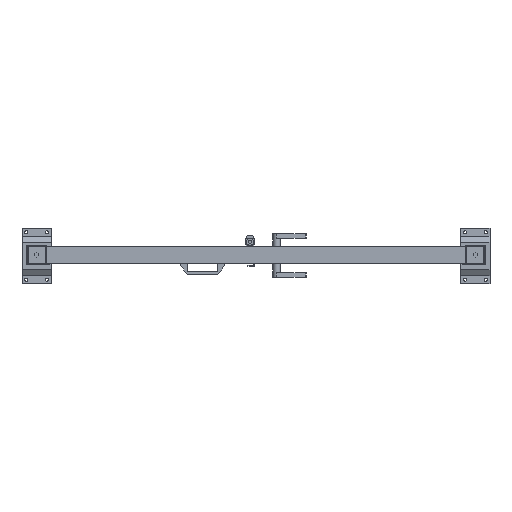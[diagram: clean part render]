
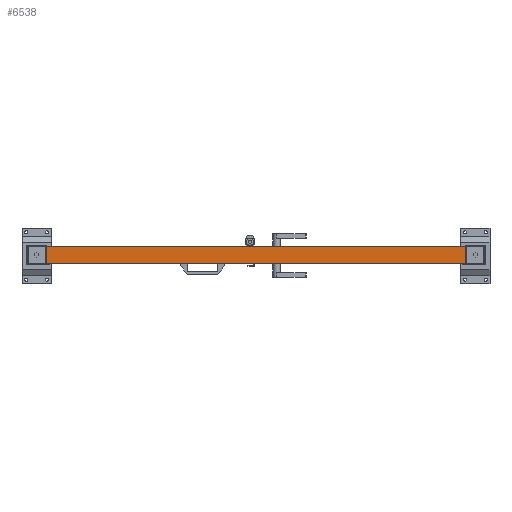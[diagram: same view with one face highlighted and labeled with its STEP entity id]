
A CAD part, top view. The second image highlights one B-rep face of the part: STEP entity #6538.
In plain terms, the highlighted planar face has unit normal (0, 0, 1).
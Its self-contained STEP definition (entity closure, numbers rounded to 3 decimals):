
#827=FACE_OUTER_BOUND('',#1171,.T.);
#1171=EDGE_LOOP('',(#4673,#4674,#4675,#4676));
#1603=LINE('',#9396,#2347);
#1604=LINE('',#9399,#2348);
#1605=LINE('',#9401,#2349);
#1606=LINE('',#9402,#2350);
#2347=VECTOR('',#7543,1.);
#2348=VECTOR('',#7546,1.);
#2349=VECTOR('',#7547,1.);
#2350=VECTOR('',#7548,1.);
#3068=VERTEX_POINT('',#9389);
#3071=VERTEX_POINT('',#9394);
#3072=VERTEX_POINT('',#9398);
#3073=VERTEX_POINT('',#9400);
#3723=EDGE_CURVE('',#3068,#3071,#1603,.T.);
#3724=EDGE_CURVE('',#3072,#3068,#1604,.T.);
#3725=EDGE_CURVE('',#3073,#3071,#1605,.T.);
#3726=EDGE_CURVE('',#3072,#3073,#1606,.T.);
#4673=ORIENTED_EDGE('',*,*,#3724,.T.);
#4674=ORIENTED_EDGE('',*,*,#3723,.T.);
#4675=ORIENTED_EDGE('',*,*,#3725,.F.);
#4676=ORIENTED_EDGE('',*,*,#3726,.F.);
#6268=PLANE('',#6912);
#6538=ADVANCED_FACE('',(#827),#6268,.T.);
#6912=AXIS2_PLACEMENT_3D('',#9397,#7544,#7545);
#7543=DIRECTION('',(1.,0.,0.));
#7544=DIRECTION('center_axis',(0.,0.,1.));
#7545=DIRECTION('ref_axis',(0.,-1.,0.));
#7546=DIRECTION('',(0.,-1.,0.));
#7547=DIRECTION('',(0.,-1.,0.));
#7548=DIRECTION('',(1.,0.,0.));
#9389=CARTESIAN_POINT('',(2042.724,1594.412,2399.));
#9394=CARTESIAN_POINT('',(3482.724,1594.412,2399.));
#9396=CARTESIAN_POINT('',(2042.724,1594.412,2399.));
#9397=CARTESIAN_POINT('Origin',(2042.724,1654.412,2399.));
#9398=CARTESIAN_POINT('',(2042.724,1654.412,2399.));
#9399=CARTESIAN_POINT('',(2042.724,1654.412,2399.));
#9400=CARTESIAN_POINT('',(3482.724,1654.412,2399.));
#9401=CARTESIAN_POINT('',(3482.724,1654.412,2399.));
#9402=CARTESIAN_POINT('',(2042.724,1654.412,2399.));
